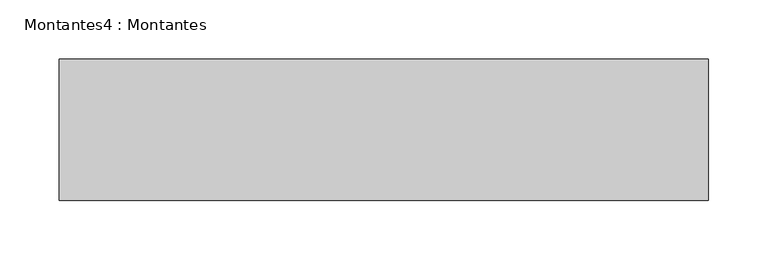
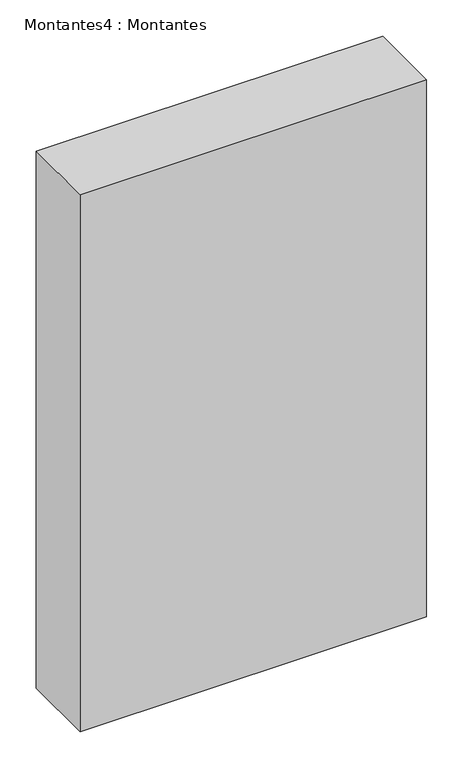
"""IFC4 building model written with IfcOpenShell, lengths in millimetres: column geometry, Montantes4 : Montantes."""

from ifc_helpers import new_model, si_unit, frame, origin, place, context, project, spatial, polyline, outline, extrude, source, transform, mapped, element, save


def montantes4_montantes_7e0a6982(model_context):
    return source(origin(), model_context, "Body", "SweptSolid", [
        extrude(outline(polyline([(-2692.3834094, -6337.0637549), (-3242.3834094, -6337.0637549), (-3242.3834094, -6217.0637549), (-2692.3834094, -6217.0637549), (-2692.3834094, -6337.0637549)])), frame((0.0, 0.0, -60.0), z_axis=(0.0, 0.0, 1.0), x_axis=(1.0, 0.0, 0.0)), (0.0, 0.0, 1.0), 900.0),
    ])


if __name__ == "__main__":
    model = new_model("IFC4")
    model_context = context("Model", 3, world=origin())
    ifc_project = project(units=[si_unit("LENGTHUNIT", "METRE", prefix="MILLI")], contexts=[model_context])
    site = spatial("IfcSite", under=ifc_project)
    building = spatial("IfcBuilding", under=site)
    placement = place(None, origin())
    montantes4_montantes_shape = montantes4_montantes_7e0a6982(model_context)
    element("IfcColumn", 1, ObjectType="Montantes4 : Montantes", at=placement, inside=building, context=model_context, shape_type="MappedRepresentation", body=[
        mapped(montantes4_montantes_shape, transform((0.0, 0.0, 0.0), x_axis=(1.0, 0.0, 0.0), y_axis=(0.0, 1.0, 0.0), z_axis=(0.0, 0.0, 1.0))),
    ])
    save(model, "model.ifc")
